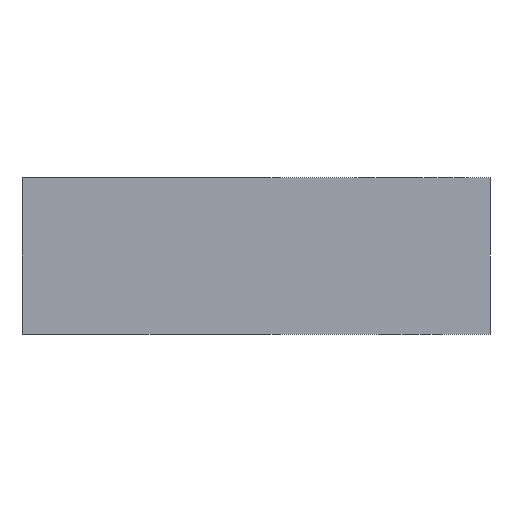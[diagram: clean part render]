
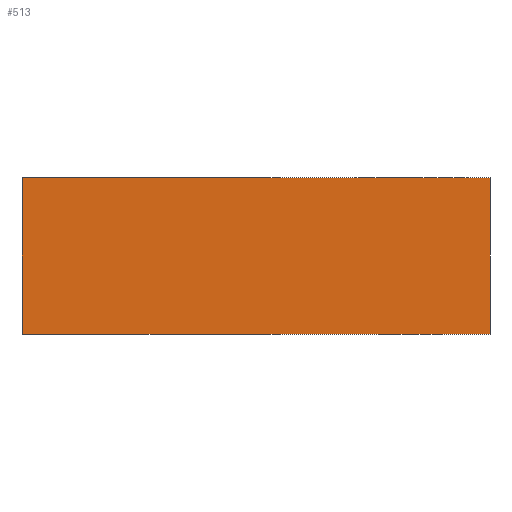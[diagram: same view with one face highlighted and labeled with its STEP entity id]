
A CAD part, left-side view. The second image highlights one B-rep face of the part: STEP entity #513.
In plain terms, the highlighted planar face has unit normal (-1, 0, 0).
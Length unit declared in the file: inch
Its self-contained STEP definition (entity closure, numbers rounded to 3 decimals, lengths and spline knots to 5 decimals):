
#89=FACE_OUTER_BOUND('',#119,.T.);
#119=EDGE_LOOP('',(#423,#424,#425,#426));
#153=LINE('',#783,#193);
#167=LINE('',#876,#207);
#168=LINE('',#877,#208);
#169=LINE('',#878,#209);
#193=VECTOR('',#621,0.3937);
#207=VECTOR('',#725,0.3937);
#208=VECTOR('',#726,0.3937);
#209=VECTOR('',#727,0.3937);
#230=VERTEX_POINT('',#780);
#231=VERTEX_POINT('',#782);
#264=VERTEX_POINT('',#874);
#265=VERTEX_POINT('',#875);
#283=EDGE_CURVE('',#231,#230,#153,.T.);
#327=EDGE_CURVE('',#264,#265,#167,.T.);
#328=EDGE_CURVE('',#231,#265,#168,.T.);
#329=EDGE_CURVE('',#230,#264,#169,.T.);
#423=ORIENTED_EDGE('',*,*,#327,.T.);
#424=ORIENTED_EDGE('',*,*,#328,.F.);
#425=ORIENTED_EDGE('',*,*,#283,.T.);
#426=ORIENTED_EDGE('',*,*,#329,.T.);
#487=PLANE('',#589);
#513=ADVANCED_FACE('',(#89),#487,.T.);
#589=AXIS2_PLACEMENT_3D('',#873,#723,#724);
#621=DIRECTION('',(0.,0.,1.));
#723=DIRECTION('center_axis',(-1.,0.,0.));
#724=DIRECTION('ref_axis',(0.,0.,1.));
#725=DIRECTION('',(0.,0.,-1.));
#726=DIRECTION('',(0.,1.,0.));
#727=DIRECTION('',(0.,1.,0.));
#780=CARTESIAN_POINT('',(-1.475,0.,0.98425));
#782=CARTESIAN_POINT('',(-1.475,0.,0.));
#783=CARTESIAN_POINT('',(-1.475,0.,0.));
#873=CARTESIAN_POINT('Origin',(-1.475,0.,0.98425));
#874=CARTESIAN_POINT('',(-1.475,2.95,0.98425));
#875=CARTESIAN_POINT('',(-1.475,2.95,0.));
#876=CARTESIAN_POINT('',(-1.475,2.95,0.));
#877=CARTESIAN_POINT('',(-1.475,0.,0.));
#878=CARTESIAN_POINT('',(-1.475,0.,0.98425));
